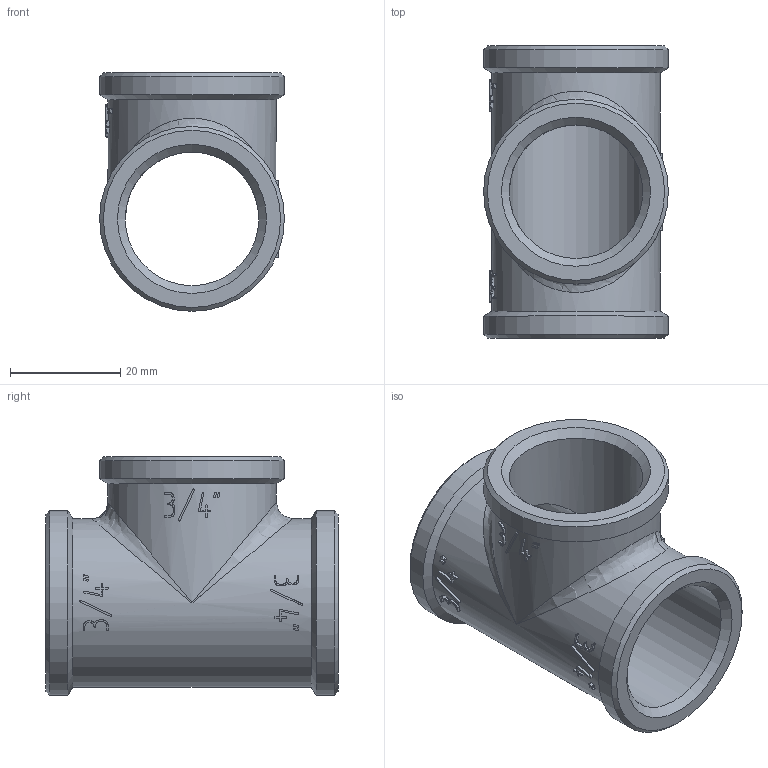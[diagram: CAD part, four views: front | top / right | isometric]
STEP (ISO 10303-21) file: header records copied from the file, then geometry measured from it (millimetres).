
FILE_DESCRIPTION(('STEP AP203'), '1');
FILE_NAME('ÂÐ.752243.003 - VTr.130.N.0005 - Ôèò. ðåçüá. òðîé', '2024-06-24T12:44:30', ('Boss'), (''), 'C3D Converter', 'C3D Toolkit', '');
FILE_SCHEMA(('CONFIG_CONTROL_DESIGN'));
Length unit declared in the file: millimetre
Products named in the file (1): ВР.752243.003
Bounding box: 33.5 x 53 x 43.25 mm (x, y, z)
Volume: 18688 mm3; surface area: 12105.8 mm2
Topology: 1 solids, 1 shells, 366 faces, 1041 edges, 689 vertices
Faces by surface type: extrusion 207, plane 125, cylinder 23, cone 9, bspline 2
Full cylindrical faces by diameter (mm): 24.2 x2, 30.5 x2, 33.5 x3
Entity records: 16443 total; most frequent: CARTESIAN_POINT 8080, ORIENTED_EDGE 2038, DIRECTION 1085, EDGE_CURVE 1019, VERTEX_POINT 689, B_SPLINE_CURVE_WITH_KNOTS 630, VECTOR 607, EDGE_LOOP 404
